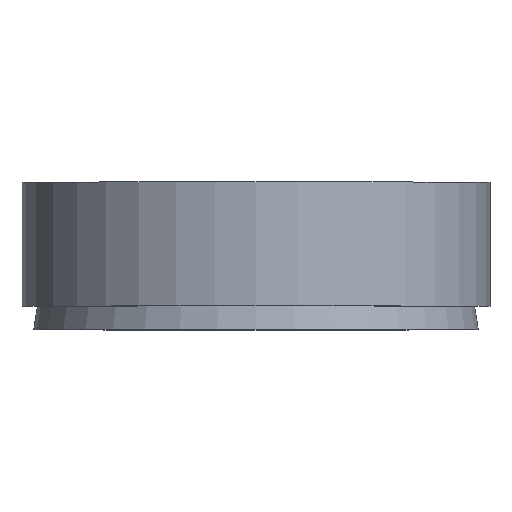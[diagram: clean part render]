
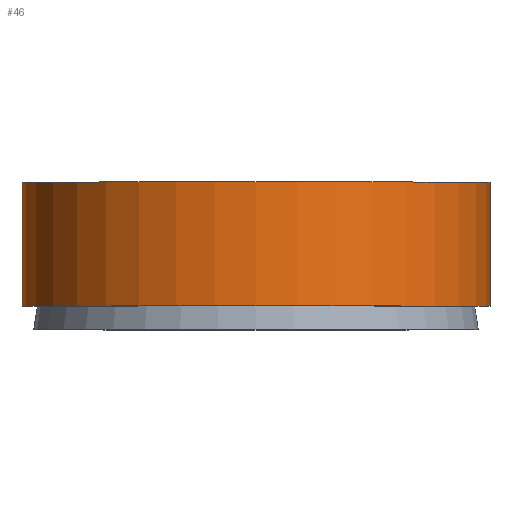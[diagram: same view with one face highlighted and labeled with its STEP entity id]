
A CAD part, top view. The second image highlights one B-rep face of the part: STEP entity #46.
In plain terms, the highlighted cylindrical face has radius 10 mm (diameter 20 mm), a full revolution.
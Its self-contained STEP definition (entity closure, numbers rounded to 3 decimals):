
#46 = ADVANCED_FACE( '', ( #93, #94 ), #95, .T. );
#93 = FACE_OUTER_BOUND( '', #132, .T. );
#94 = FACE_OUTER_BOUND( '', #133, .T. );
#95 = CYLINDRICAL_SURFACE( '', #134, 10. );
#132 = EDGE_LOOP( '', ( #179 ) );
#133 = EDGE_LOOP( '', ( #180 ) );
#134 = AXIS2_PLACEMENT_3D( '', #181, #182, #183 );
#179 = ORIENTED_EDGE( '', *, *, #189, .F. );
#180 = ORIENTED_EDGE( '', *, *, #198, .T. );
#181 = CARTESIAN_POINT( '', ( 0., -60., 0. ) );
#182 = DIRECTION( '', ( 0., 1., 0. ) );
#183 = DIRECTION( '', ( 0., 0., -1. ) );
#189 = EDGE_CURVE( '', #208, #208, #209, .T. );
#198 = EDGE_CURVE( '', #221, #221, #222, .T. );
#208 = VERTEX_POINT( '', #232 );
#209 = CIRCLE( '', #233, 10. );
#221 = VERTEX_POINT( '', #245 );
#222 = CIRCLE( '', #246, 10. );
#232 = CARTESIAN_POINT( '', ( 0., 1., -10. ) );
#233 = AXIS2_PLACEMENT_3D( '', #257, #258, #259 );
#245 = CARTESIAN_POINT( '', ( 0., 6.3, -10. ) );
#246 = AXIS2_PLACEMENT_3D( '', #269, #270, #271 );
#257 = CARTESIAN_POINT( '', ( 0., 1., 0. ) );
#258 = DIRECTION( '', ( 0., -1., 0. ) );
#259 = DIRECTION( '', ( 0., 0., -1. ) );
#269 = CARTESIAN_POINT( '', ( 0., 6.3, 0. ) );
#270 = DIRECTION( '', ( 0., -1., 0. ) );
#271 = DIRECTION( '', ( 0., 0., -1. ) );
